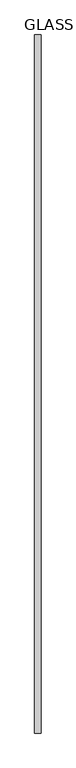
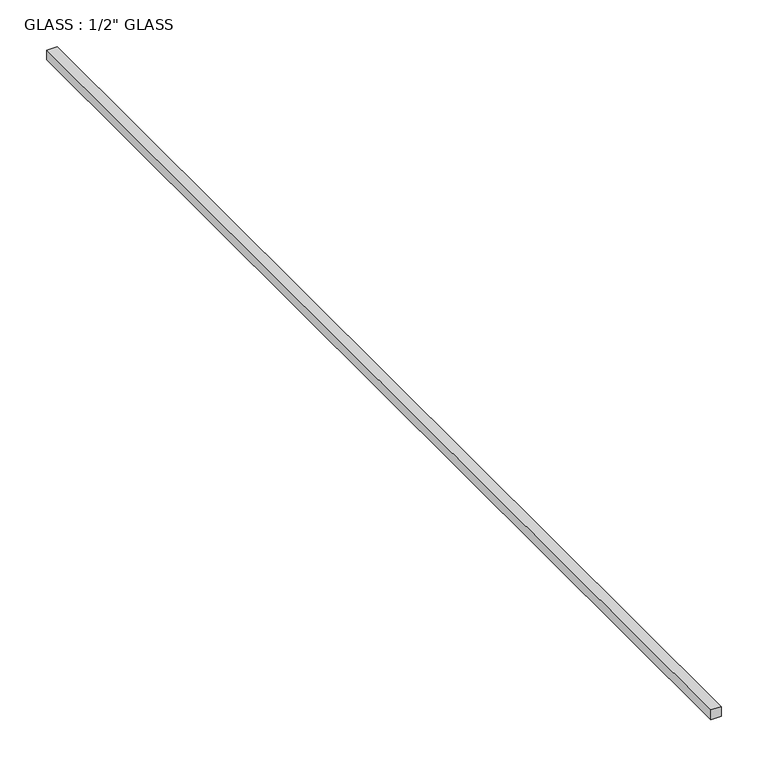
"""IFC4 building model written with IfcOpenShell, lengths in millimetres: proxy geometry."""

import ifcopenshell
import ifcopenshell.guid

model = None  # the IFC model being written
_history = None  # IfcOwnerHistory: only IFC2X3 demands one
_inside = {}  # id of a spatial element -> (the spatial element, [elements in it])
_under = {}  # id of a project, library or spatial element -> (it, [spatial elements below it])
_declared = {}  # id of a project -> (the project, [libraries it declares])
_typed = {}  # id of a type object -> (the type object, [elements of that type])
_made_of = {}  # id of a material, layer set ... -> (it, [elements and type objects made of it])


def new_model(schema):
    """Start an empty IFC model of exactly this schema.

    Asked for "IFC4X3", IfcOpenShell would pick the latest addendum, in which some entities
    have other attributes; the version numbers below select the first issue.
    IFC2X3 requires an IfcOwnerHistory on every rooted entity: one is made here for all.
    """
    global model, _history
    if schema == "IFC4X3":
        model = ifcopenshell.file(schema_version=(4, 3, 0, 0))
    else:
        model = ifcopenshell.file(schema=schema)
    _inside.clear()
    _under.clear()
    _declared.clear()
    _typed.clear()
    _made_of.clear()
    _history = None
    if model.schema == "IFC2X3":
        org = make("IfcOrganization", Name="unknown")
        user = make(
            "IfcPersonAndOrganization",
            ThePerson=make("IfcPerson", FamilyName="unknown"),
            TheOrganization=org,
        )
        app = make(
            "IfcApplication",
            ApplicationDeveloper=org,
            Version="unknown",
            ApplicationFullName="unknown",
            ApplicationIdentifier="unknown",
        )
        _history = make(
            "IfcOwnerHistory",
            OwningUser=user,
            OwningApplication=app,
            ChangeAction="ADDED",
            CreationDate=0,
        )
    return model


def make(cls, **values):
    """One entity of the class cls with the attributes given. An attribute that is None is left unset."""
    return model.create_entity(
        cls, **{name: value for name, value in values.items() if value is not None}
    )


def rooted(cls, **values):
    """An entity with a GlobalId (a new one), such as an element, a storey or a relation."""
    return make(cls, GlobalId=ifcopenshell.guid.new(), OwnerHistory=_history, **values)


def si_unit(unit_type, name, prefix=None):
    """IfcSIUnit, for example si_unit("LENGTHUNIT", "METRE", prefix="MILLI")."""
    return make("IfcSIUnit", UnitType=unit_type, Prefix=prefix, Name=name)


def assignment(units):
    """IfcUnitAssignment: the units of a project."""
    return None if units is None else make("IfcUnitAssignment", Units=units)


def point(xyz):
    """IfcCartesianPoint."""
    return None if xyz is None else make("IfcCartesianPoint", Coordinates=xyz)


def direction(xyz):
    """IfcDirection."""
    return None if xyz is None else make("IfcDirection", DirectionRatios=xyz)


def frame(location, z_axis=None, x_axis=None):
    """IfcAxis2Placement3D, a coordinate frame: its origin and axes. An axis left out is left unset."""
    return make(
        "IfcAxis2Placement3D",
        Location=point(location),
        Axis=direction(z_axis),
        RefDirection=direction(x_axis),
    )


def origin():
    """The frame at (0, 0, 0) with its axes left unset."""
    return frame((0.0, 0.0, 0.0))


def place(relative_to, where):
    """IfcLocalPlacement: puts the frame where relative to a parent placement (None: the world)."""
    return make(
        "IfcLocalPlacement", PlacementRelTo=relative_to, RelativePlacement=where
    )


def context(
    kind, dimensions, precision=None, world=None, true_north=None, identifier=None
):
    """IfcGeometricRepresentationContext, for example the 3D "Model" context."""
    return make(
        "IfcGeometricRepresentationContext",
        ContextIdentifier=identifier,
        ContextType=kind,
        CoordinateSpaceDimension=dimensions,
        Precision=precision,
        WorldCoordinateSystem=world,
        TrueNorth=true_north,
    )


def project(units=None, contexts=None):
    """IfcProject with its units and contexts."""
    return rooted(
        "IfcProject",
        Name="project",
        RepresentationContexts=contexts,
        UnitsInContext=assignment(units),
    )


def spatial(cls, under=None, at=None, **own):
    """A site, building, storey or space (cls), placed at a placement, below another one or the project."""
    s = rooted(cls, ObjectPlacement=at, **own)
    if under is not None:
        _under.setdefault(under.id(), (under, []))[1].append(s)
    return s


def polyline(points):
    """IfcPolyline through the points."""
    return make("IfcPolyline", Points=[point(p) for p in points])


def outline(outer, holes=None, kind="AREA"):
    """IfcArbitraryClosedProfileDef: a profile drawn as a closed curve; with holes, ...WithVoids."""
    if holes is None:
        return make("IfcArbitraryClosedProfileDef", ProfileType=kind, OuterCurve=outer)
    return make(
        "IfcArbitraryProfileDefWithVoids",
        ProfileType=kind,
        OuterCurve=outer,
        InnerCurves=holes,
    )


def extrude(swept, where, along, depth):
    """IfcExtrudedAreaSolid: the profile swept, set in the frame where, extruded along a direction by depth."""
    return make(
        "IfcExtrudedAreaSolid",
        SweptArea=swept,
        Position=where,
        ExtrudedDirection=direction(along),
        Depth=depth,
    )


def shape(context_of_items, identifier, shape_type, items):
    """IfcShapeRepresentation: the items that make up one representation, for example the "Body"."""
    return make(
        "IfcShapeRepresentation",
        ContextOfItems=context_of_items,
        RepresentationIdentifier=identifier,
        RepresentationType=shape_type,
        Items=items,
    )


def source(mapping_origin, context_of_items, identifier, shape_type, items):
    """IfcRepresentationMap: a shape defined once, which mapped items show again and again."""
    return make(
        "IfcRepresentationMap",
        MappingOrigin=mapping_origin,
        MappedRepresentation=shape(context_of_items, identifier, shape_type, items),
    )


def transform(
    local_origin,
    x_axis=None,
    y_axis=None,
    z_axis=None,
    scale=None,
    scale2=None,
    scale3=None,
    uniform=True,
):
    """IfcCartesianTransformationOperator3D, or its non-uniform kind. x_axis, y_axis, z_axis: its Axis1, 2, 3."""
    if uniform:
        return make(
            "IfcCartesianTransformationOperator3D",
            Axis1=direction(x_axis),
            Axis2=direction(y_axis),
            LocalOrigin=point(local_origin),
            Scale=scale,
            Axis3=direction(z_axis),
        )
    return make(
        "IfcCartesianTransformationOperator3DnonUniform",
        Axis1=direction(x_axis),
        Axis2=direction(y_axis),
        LocalOrigin=point(local_origin),
        Scale=scale,
        Axis3=direction(z_axis),
        Scale2=scale2,
        Scale3=scale3,
    )


def mapped(mapping_source, mapping_target):
    """IfcMappedItem: shows the shape of a source again, moved by a transform."""
    return make(
        "IfcMappedItem", MappingSource=mapping_source, MappingTarget=mapping_target
    )


def made_of(thing, what):
    """Note that an element or type object is made of a material, layer set ...; save() writes the relation."""
    if what is not None:
        _made_of.setdefault(what.id(), (what, []))[1].append(thing)
    return thing


def element(
    cls,
    number,
    at=None,
    inside=None,
    cuts=None,
    type_object=None,
    material=None,
    context=None,
    identifier="Body",
    shape_type=None,
    held_by="IfcProductDefinitionShape",
    body=None,
    shapes=None,
    **own,
):
    """One element of the class cls, such as IfcWall. Its Tag is "e" and its number.

    at: its placement. inside: the storey or other place that contains it. cuts: it is an
    opening in that element (IfcRelVoidsElement). A single representation is given by context,
    identifier, shape_type and body (its items); several are given by shapes. held_by: the class
    of the entity that holds the representations. save() writes the other relations.
    """
    e = rooted(cls, Tag="e%d" % number, ObjectPlacement=at, **own)
    if body is not None:
        shapes = [shape(context, identifier, shape_type, body)]
    if shapes is not None:
        e.Representation = make(held_by, Representations=shapes)
    if inside is not None:
        _inside.setdefault(inside.id(), (inside, []))[1].append(e)
    if cuts is not None:
        rooted(
            "IfcRelVoidsElement", RelatingBuildingElement=cuts, RelatedOpeningElement=e
        )
    if type_object is not None:
        _typed.setdefault(type_object.id(), (type_object, []))[1].append(e)
    return made_of(e, material)


def aggregate(whole, parts):
    """IfcRelAggregates: a whole, such as a stair, and the parts it consists of."""
    return rooted("IfcRelAggregates", RelatingObject=whole, RelatedObjects=parts)


def save(model, path):
    """Write the relations noted so far, then the file.

    IfcRelAggregates (storeys below a building ...), IfcRelContainedInSpatialStructure (elements
    in a storey), IfcRelDefinesByType, IfcRelAssociatesMaterial and IfcRelDeclares: one each for
    every whole, place, type object, material and project.
    """
    for whole, parts in _under.values():
        aggregate(whole, parts)
    for where, things in _inside.values():
        rooted(
            "IfcRelContainedInSpatialStructure",
            RelatedElements=things,
            RelatingStructure=where,
        )
    for kind, things in _typed.values():
        rooted("IfcRelDefinesByType", RelatedObjects=things, RelatingType=kind)
    for what, things in _made_of.values():
        rooted("IfcRelAssociatesMaterial", RelatedObjects=things, RelatingMaterial=what)
    for by, libraries in _declared.values():
        rooted("IfcRelDeclares", RelatingContext=by, RelatedDefinitions=libraries)
    model.write(path)


def proxy_60689a1d(model_context):
    return source(origin(), model_context, "Body", "SweptSolid", [
        extrude(outline(polyline([(-6.35, 0.0), (6.35, 0.0), (6.35, -1419.1950006), (-6.35, -1419.1950006), (-6.35, 0.0)])), frame((0.0, 0.0, -6.35), z_axis=(0.0, 0.0, 1.0), x_axis=(1.0, 0.0, 0.0)), (0.0, 0.0, 1.0), 12.7),
    ])


if __name__ == "__main__":
    model = new_model("IFC4")
    model_context = context("Model", 3, world=origin())
    ifc_project = project(units=[si_unit("LENGTHUNIT", "METRE", prefix="MILLI")], contexts=[model_context])
    site = spatial("IfcSite", under=ifc_project)
    building = spatial("IfcBuilding", under=site)
    placement = place(None, origin())
    proxy_shape = proxy_60689a1d(model_context)
    element("IfcBuildingElementProxy", 1, Name="GLASS : 1/2\" GLASS", ObjectType="GLASS : 1/2\" GLASS", at=placement, inside=building, context=model_context, shape_type="MappedRepresentation", body=[
        mapped(proxy_shape, transform((0.0, 0.0, 0.0), x_axis=(1.0, 0.0, 0.0), y_axis=(0.0, 1.0, 0.0), z_axis=(0.0, 0.0, 1.0))),
    ])
    save(model, "model.ifc")
